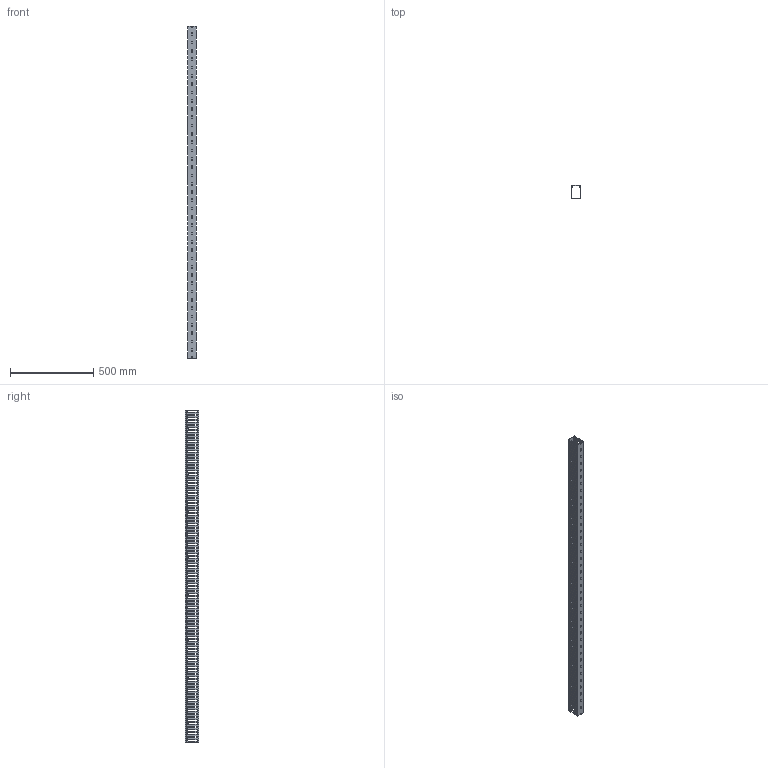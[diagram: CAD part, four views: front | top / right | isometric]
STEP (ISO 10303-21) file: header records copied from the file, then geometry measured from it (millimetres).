
FILE_DESCRIPTION (( 'STEP AP214' ), '1' );
FILE_NAME ('KD-58-20-H.STEP', '2020-02-19T00:35:21', ( '' ), ( '' ), 'SwSTEP 2.0', 'SolidWorks 2018', '' );
FILE_SCHEMA (( 'AUTOMOTIVE_DESIGN' ));
Length unit declared in the file: millimetre
Products named in the file (3): KD-58-20-H-body; KD-58-20-H; KD-56-20-cover
Assembly tree (2 placements, depth 2):
  KD-58-20-H
    KD-58-20-H-body
    KD-56-20-cover
Bounding box: 52 x 80.17 x 2000 mm (x, y, z)
Volume: 796801.7 mm3; surface area: 1019023.1 mm2
Topology: 2 solids, 2 shells, 1867 faces, 5589 edges, 3726 vertices
Faces by surface type: cylinder 957, plane 910
Entity records: 64503 total; most frequent: DIRECTION 11247, CARTESIAN_POINT 11187, ORIENTED_EDGE 11178, EDGE_CURVE 5589, AXIS2_PLACEMENT_3D 3786, VERTEX_POINT 3726, LINE 3675, VECTOR 3675
